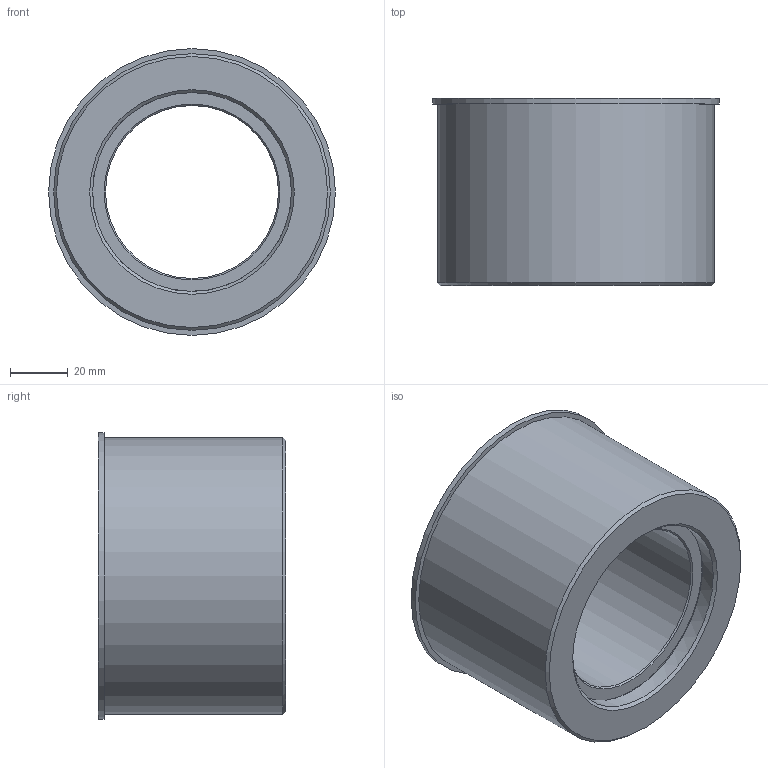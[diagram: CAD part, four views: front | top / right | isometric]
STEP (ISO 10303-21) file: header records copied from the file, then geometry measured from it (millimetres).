
FILE_DESCRIPTION(('STEP AP214'),'1');
FILE_NAME('C:/Projets/Serie 10.xx.xx/10.10.06.step','2011-11-10T15:38:22',(' '),(' '),'Spatial InterOp 3D',' ',' ');
FILE_SCHEMA(('automotive_design'));
Length unit declared in the file: metre
Products named in the file (3): boitier 06; rotule 06; 1
Bounding box: 99.5 x 65 x 99.5 mm (x, y, z)
Volume: 258039.4 mm3; surface area: 68284.7 mm2
Topology: 2 solids, 2 shells, 41 faces, 640 edges, 1152 vertices
Faces by surface type: plane 15, cylinder 12, cone 12, sphere 2
Full cylindrical faces by diameter (mm): 60 x1, 69 x1, 96 x1, 99.5 x1
Entity records: 8081 total; most frequent: CARTESIAN_POINT 767, DIRECTION 762, STYLED_ITEM 590, PRESENTATION_STYLE_ASSIGNMENT 590, COLOUR_RGB 590, LINE 568, VECTOR 568, TRIMMED_CURVE 549
